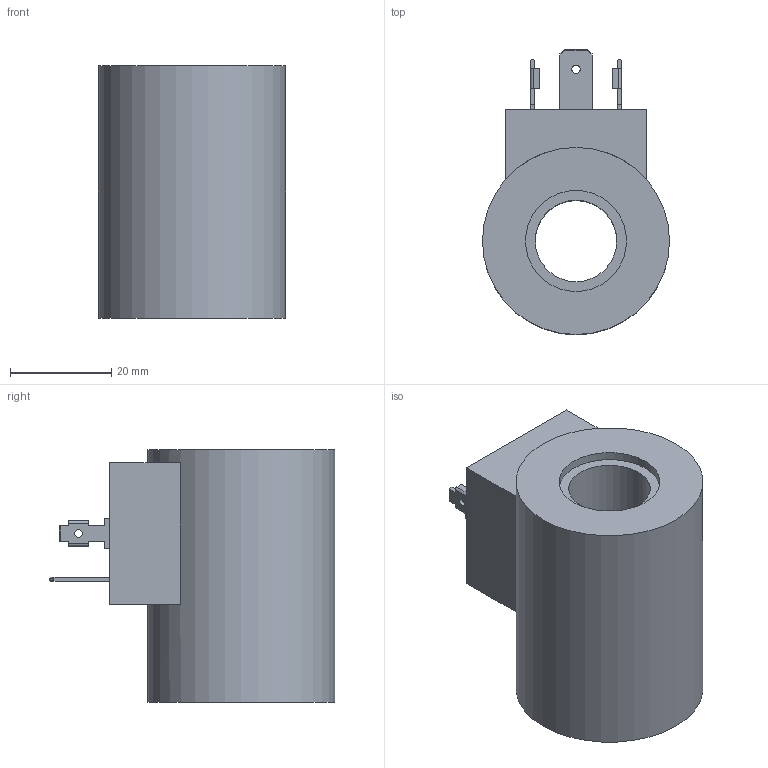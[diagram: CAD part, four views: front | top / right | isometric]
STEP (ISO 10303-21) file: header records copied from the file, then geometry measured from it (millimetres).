
FILE_DESCRIPTION(/* description */ ('Bobina'),/* implementation_level */ '2;1');
FILE_NAME(/* name */ 'C:\Users\fabio.radici\Desktop\x fede\C-38-D-012-DC.stp',/* time_stamp */ '2021-03-31T11:58:29+02:00',/* author */ ('Fabio.Radici'),/* organization */ (''),/* preprocessor_version */ 'ST-DEVELOPER v18.1',/* originating_system */ 'Autodesk Inventor 2021',/* authorisation */ '');
FILE_SCHEMA (('AUTOMOTIVE_DESIGN { 1 0 10303 214 3 1 1 }'));
Length unit declared in the file: millimetre
Products named in the file (1): C38D012DC
Bounding box: 37 x 56.5 x 50 mm (x, y, z)
Volume: 50700.7 mm3; surface area: 11810.5 mm2
Topology: 1 solids, 1 shells, 81 faces, 206 edges, 133 vertices
Faces by surface type: plane 68, cylinder 12, cone 1
Full cylindrical faces by diameter (mm): 1.5 x2, 1.65 x1, 3 x1, 16.1 x1, 20 x2, 37 x1
Entity records: 2528 total; most frequent: CARTESIAN_POINT 420, ORIENTED_EDGE 410, DIRECTION 395, EDGE_CURVE 205, LINE 179, VECTOR 179, VERTEX_POINT 133, AXIS2_PLACEMENT_3D 108
